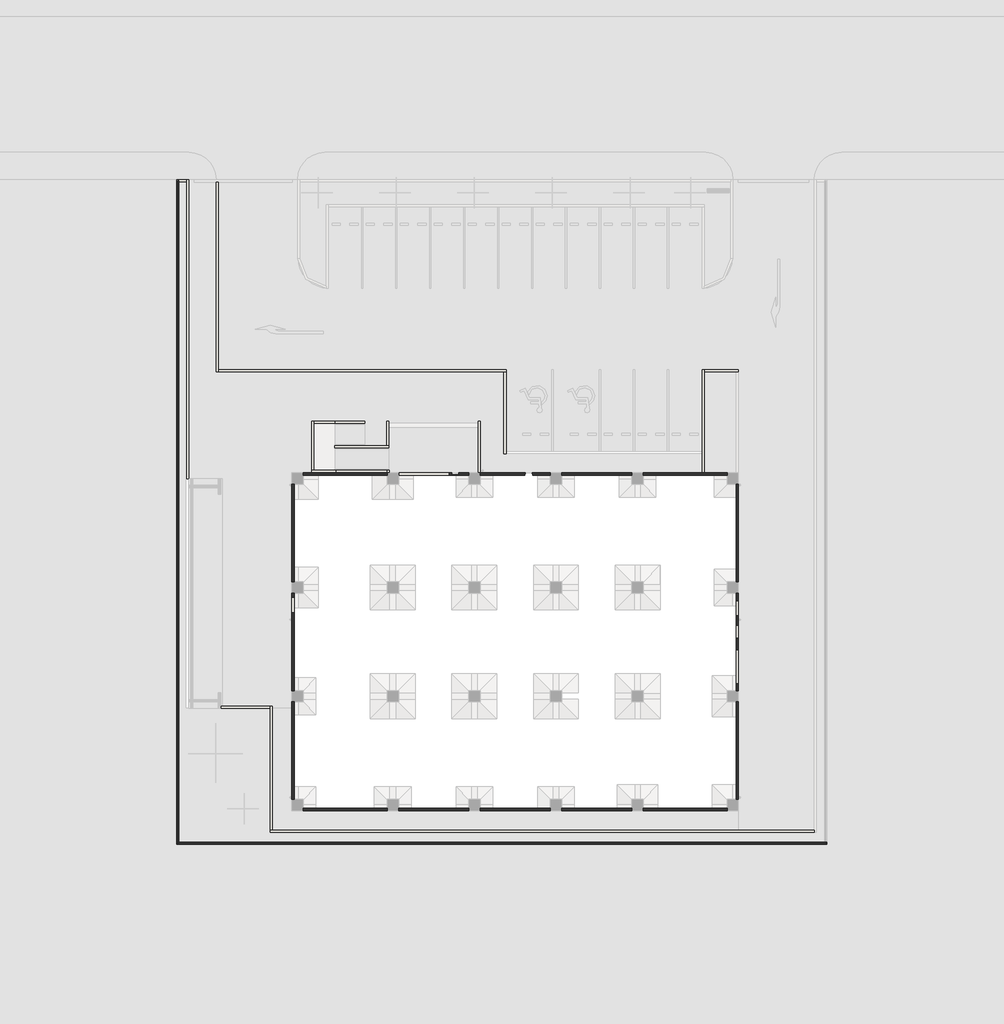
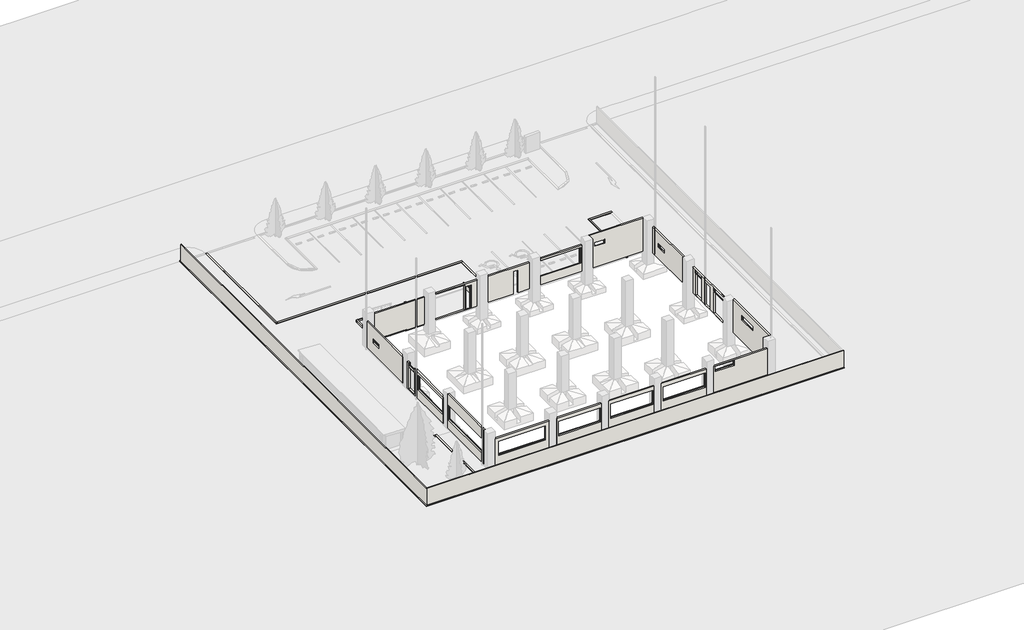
# One storey, part 1 of 4: 26 walls.
"""IFC4 building model written with IfcOpenShell, lengths in millimetres."""

from ifc_helpers import new_model, si_unit, frame, origin, place, context, project, spatial, polyline, outline, extrude, faceted_brep, element, save

model = new_model("IFC4")

# Units and contexts
model_context = context("Model", 3, world=origin())
ifc_project = project(units=[si_unit("LENGTHUNIT", "METRE", prefix="MILLI")], contexts=[model_context])

# Site, building, storey
site = spatial("IfcSite", under=ifc_project)
building = spatial("IfcBuilding", under=site)
storey = spatial("IfcBuildingStorey", under=building, Name="設計GL=平均地盤面", Elevation=-300.0)

# Walls
placement = place(None, origin())
element("IfcWall", 1, ObjectType="(外壁)RC150+20", at=placement, inside=storey, context=model_context, shape_type="Brep", body=[
    faceted_brep([(-250.0, 14112.5, 3100.0), (-250.0, 8420.0, 3100.0), (-250.0, 8420.0, -100.0), (-250.0, 15580.0, -100.0), (-250.0, 15580.0, 3100.0), (-250.0, 15292.5, 3100.0), (-250.0, 15292.5, 2765.0), (-250.0, 14112.5, 2765.0), (-250.0, 15262.5, 2570.0), (-250.0, 15262.5, 0.0), (-250.0, 14152.5, 0.0), (-250.0, 14152.5, 2570.0), (-250.0, 13410.0, 2720.0), (-250.0, 13410.0, 1065.0), (-250.0, 8590.0, 1065.0), (-250.0, 8590.0, 2720.0), (-420.0, 8420.0, 3100.0), (-420.0, 14142.5, 3100.0), (-420.0, 14142.5, 2675.0), (-420.0, 15262.5, 2675.0), (-420.0, 15262.5, 3100.0), (-420.0, 15580.0, 3100.0), (-420.0, 15580.0, -100.0), (-420.0, 8420.0, -100.0), (-420.0, 15262.5, 0.0), (-420.0, 15262.5, 2570.0), (-420.0, 14152.5, 2570.0), (-420.0, 14152.5, 0.0), (-420.0, 8620.0, 975.0), (-420.0, 13380.0, 975.0), (-420.0, 13380.0, 2695.0), (-420.0, 8620.0, 2695.0), (-290.0, 13410.0, 2720.0), (-290.0, 13410.0, 1065.0), (-290.0, 8590.0, 1065.0), (-290.0, 8590.0, 2720.0), (-290.0, 13400.0, 1065.0), (-290.0, 8600.0, 1065.0), (-290.0, 8600.0, 2715.0), (-290.0, 13400.0, 2715.0), (-360.0, 13400.0, 2715.0), (-360.0, 13400.0, 984.2307692), (-290.0, 13400.0, 995.0), (-290.0, 8600.0, 995.0), (-360.0, 8600.0, 984.2307692), (-360.0, 8600.0, 2715.0), (-360.0, 13380.0, 984.2307692), (-360.0, 8620.0, 984.2307692), (-360.0, 8620.0, 2695.0), (-360.0, 13380.0, 2695.0), (-290.0, 14112.5, 3100.0), (-290.0, 14122.5, 3100.0), (-360.0, 14122.5, 3100.0), (-360.0, 14142.5, 3100.0), (-360.0, 15262.5, 3100.0), (-360.0, 15282.5, 3100.0), (-290.0, 15282.5, 3100.0), (-290.0, 15292.5, 3100.0), (-290.0, 15292.5, 2765.0), (-290.0, 14112.5, 2765.0), (-290.0, 15282.5, 2765.0), (-290.0, 14122.5, 2765.0), (-360.0, 15282.5, 2684.2307692), (-290.0, 15282.5, 2695.0), (-290.0, 14122.5, 2695.0), (-360.0, 14122.5, 2684.2307692), (-360.0, 15262.5, 2684.2307692), (-360.0, 14142.5, 2684.2307692)], [[[0, 1, 2, 3, 4, 5, 6, 7], [8, 9, 10, 11], [12, 13, 14, 15]], [[16, 17, 18, 19, 20, 21, 22, 23], [24, 25, 26, 27], [28, 29, 30, 31]], [[9, 8, 25, 24]], [[10, 9, 24, 27]], [[11, 10, 27, 26]], [[8, 11, 26, 25]], [[32, 33, 13, 12]], [[34, 35, 15, 14]], [[13, 33, 36, 37, 34, 14]], [[33, 32, 35, 34, 37, 38, 39, 36]], [[32, 12, 15, 35]], [[36, 39, 40, 41, 42]], [[38, 37, 43, 44, 45]], [[42, 41, 46, 29, 28, 47, 44, 43]], [[41, 40, 45, 44, 47, 48, 49, 46]], [[39, 38, 45, 40]], [[37, 36, 42, 43]], [[29, 46, 49, 30]], [[47, 28, 31, 48]], [[49, 48, 31, 30]], [[1, 16, 23, 2]], [[21, 4, 3, 22]], [[1, 0, 50, 51, 52, 53, 17, 16]], [[5, 4, 21, 20, 54, 55, 56, 57]], [[58, 6, 5, 57]], [[7, 59, 50, 0]], [[58, 60, 61, 59, 7, 6]], [[60, 58, 57, 56]], [[59, 61, 51, 50]], [[62, 63, 60, 56, 55]], [[64, 65, 52, 51, 61]], [[63, 62, 66, 19, 18, 67, 65, 64]], [[66, 62, 55, 54]], [[65, 67, 53, 52]], [[61, 60, 63, 64]], [[19, 66, 54, 20]], [[67, 18, 17, 53]], [[3, 2, 23, 22]]]),
    faceted_brep([(-250.0, 23580.0, 3100.0), (-250.0, 16420.0, 3100.0), (-250.0, 16420.0, -10.0), (-250.0, 23580.0, -10.0), (-250.0, 22325.0, 1785.0), (-250.0, 22325.0, 1365.0), (-250.0, 21145.0, 1365.0), (-250.0, 21145.0, 1785.0), (-420.0, 16420.0, 3100.0), (-420.0, 23580.0, 3100.0), (-420.0, 23580.0, -10.0), (-420.0, 16420.0, -10.0), (-420.0, 21175.0, 1275.0), (-420.0, 22295.0, 1275.0), (-420.0, 22295.0, 1760.0), (-420.0, 21175.0, 1760.0), (-290.0, 22325.0, 1785.0), (-290.0, 22325.0, 1365.0), (-290.0, 21145.0, 1365.0), (-290.0, 21145.0, 1785.0), (-290.0, 22315.0, 1365.0), (-290.0, 21155.0, 1365.0), (-290.0, 21155.0, 1780.0), (-290.0, 22315.0, 1780.0), (-360.0, 22315.0, 1780.0), (-360.0, 22315.0, 1284.2307692), (-290.0, 22315.0, 1295.0), (-290.0, 21155.0, 1295.0), (-360.0, 21155.0, 1284.2307692), (-360.0, 21155.0, 1780.0), (-360.0, 22295.0, 1284.2307692), (-360.0, 21175.0, 1284.2307692), (-360.0, 21175.0, 1760.0), (-360.0, 22295.0, 1760.0)], [[[0, 1, 2, 3], [4, 5, 6, 7]], [[8, 9, 10, 11], [12, 13, 14, 15]], [[11, 2, 1, 8]], [[3, 10, 9, 0]], [[1, 0, 9, 8]], [[16, 17, 5, 4]], [[18, 19, 7, 6]], [[5, 17, 20, 21, 18, 6]], [[17, 16, 19, 18, 21, 22, 23, 20]], [[16, 4, 7, 19]], [[20, 23, 24, 25, 26]], [[22, 21, 27, 28, 29]], [[26, 25, 30, 13, 12, 31, 28, 27]], [[25, 24, 29, 28, 31, 32, 33, 30]], [[23, 22, 29, 24]], [[21, 20, 26, 27]], [[13, 30, 33, 14]], [[31, 12, 15, 32]], [[33, 32, 15, 14]], [[3, 2, 11, 10]]]),
    faceted_brep([(-250.0, 420.0, -100.0), (-250.0, 7580.0, -100.0), (-250.0, 7580.0, 3100.0), (-250.0, 7580.0, 3850.0), (-250.0, 7580.0, 4000.0), (-250.0, 420.0, 4000.0), (-250.0, 420.0, 3850.0), (-250.0, 420.0, 3100.0), (-250.0, 7465.0, 2720.0), (-250.0, 7465.0, 1065.0), (-250.0, 835.0, 1065.0), (-250.0, 835.0, 2720.0), (-420.0, 420.0, 4000.0), (-420.0, 7580.0, 4000.0), (-420.0, 7580.0, -100.0), (-420.0, 420.0, -100.0), (-420.0, 865.0, 975.0), (-420.0, 7435.0, 975.0), (-420.0, 7435.0, 2695.0), (-420.0, 865.0, 2695.0), (-290.0, 7465.0, 2720.0), (-290.0, 7465.0, 1065.0), (-290.0, 835.0, 1065.0), (-290.0, 835.0, 2720.0), (-290.0, 7455.0, 1065.0), (-290.0, 845.0, 1065.0), (-290.0, 845.0, 2715.0), (-290.0, 7455.0, 2715.0), (-360.0, 7455.0, 2715.0), (-360.0, 7455.0, 984.2307692), (-290.0, 7455.0, 995.0), (-290.0, 845.0, 995.0), (-360.0, 845.0, 984.2307692), (-360.0, 845.0, 2715.0), (-360.0, 7435.0, 984.2307692), (-360.0, 865.0, 984.2307692), (-360.0, 865.0, 2695.0), (-360.0, 7435.0, 2695.0)], [[[0, 1, 2, 3, 4, 5, 6, 7], [8, 9, 10, 11]], [[12, 13, 14, 15], [16, 17, 18, 19]], [[12, 5, 4, 13]], [[20, 21, 9, 8]], [[22, 23, 11, 10]], [[9, 21, 24, 25, 22, 10]], [[21, 20, 23, 22, 25, 26, 27, 24]], [[20, 8, 11, 23]], [[24, 27, 28, 29, 30]], [[26, 25, 31, 32, 33]], [[30, 29, 34, 17, 16, 35, 32, 31]], [[29, 28, 33, 32, 35, 36, 37, 34]], [[27, 26, 33, 28]], [[25, 24, 30, 31]], [[17, 34, 37, 18]], [[35, 16, 19, 36]], [[37, 36, 19, 18]], [[15, 0, 7, 6, 5, 12]], [[1, 14, 13, 4, 3, 2]], [[1, 0, 15, 14]]]),
])
element("IfcWall", 2, ObjectType="(外壁)RC150+20", at=placement, inside=storey, context=model_context, shape_type="Brep", body=[
    faceted_brep([(7420.0, 24250.0, 3050.0), (11140.0, 24250.0, 3050.0), (11140.0, 24250.0, 0.0), (7420.0, 24250.0, 0.0), (7420.0, 24250.0, -10.0), (12580.0, 24250.0, -10.0), (12580.0, 24250.0, 3150.0), (7420.0, 24250.0, 3150.0), (11890.0, 24250.0, 2795.0), (11890.0, 24250.0, 40.0), (11310.0, 24250.0, 40.0), (11310.0, 24250.0, 2795.0), (11140.0, 24420.0, 3050.0), (7420.0, 24420.0, 3050.0), (7420.0, 24420.0, 3150.0), (12580.0, 24420.0, 3150.0), (12580.0, 24420.0, -10.0), (11860.0, 24420.0, -10.0), (11860.0, 24420.0, 2770.0), (11340.0, 24420.0, 2770.0), (11340.0, 24420.0, -10.0), (7420.0, 24420.0, -10.0), (7420.0, 24420.0, 0.0), (11140.0, 24420.0, 0.0), (11890.0, 24290.0, 2795.0), (11890.0, 24290.0, 40.0), (11310.0, 24290.0, 40.0), (11310.0, 24290.0, 2795.0), (11880.0, 24290.0, 40.0), (11320.0, 24290.0, 40.0), (11320.0, 24290.0, 2790.0), (11880.0, 24290.0, 2790.0), (11880.0, 24360.0, 2790.0), (11880.0, 24360.0, -10.0), (11880.0, 24290.0, -10.0), (11320.0, 24290.0, -10.0), (11320.0, 24360.0, -10.0), (11320.0, 24360.0, 2790.0), (11340.0, 24360.0, -10.0), (11340.0, 24360.0, 2770.0), (11860.0, 24360.0, 2770.0), (11860.0, 24360.0, -10.0)], [[[0, 1, 2, 3, 4, 5, 6, 7], [8, 9, 10, 11]], [[12, 13, 14, 15, 16, 17, 18, 19, 20, 21, 22, 23]], [[12, 1, 0, 13]], [[23, 2, 1, 12]], [[2, 23, 22, 3]], [[24, 25, 9, 8]], [[26, 27, 11, 10]], [[25, 28, 29, 26, 10, 9]], [[25, 24, 27, 26, 29, 30, 31, 28]], [[27, 24, 8, 11]], [[28, 31, 32, 33, 34]], [[30, 29, 35, 36, 37]], [[32, 37, 36, 38, 39, 40, 41, 33]], [[31, 30, 37, 32]], [[29, 28, 34, 35]], [[40, 18, 17, 41]], [[19, 39, 38, 20]], [[40, 39, 19, 18]], [[21, 4, 3, 22]], [[7, 14, 13, 0]], [[15, 6, 5, 16]], [[7, 6, 15, 14]], [[5, 4, 21, 20, 38, 36, 35, 34, 33, 41, 17, 16]]]),
    faceted_brep([(16710.0, 24250.0, 2720.0), (17290.0, 24250.0, 2720.0), (17290.0, 24250.0, -10.0), (18580.0, 24250.0, -10.0), (18580.0, 24250.0, 3150.0), (13420.0, 24250.0, 3150.0), (13420.0, 24250.0, -10.0), (16710.0, 24250.0, -10.0), (17260.0, 24420.0, 2695.0), (16740.0, 24420.0, 2695.0), (16740.0, 24420.0, -10.0), (13420.0, 24420.0, -10.0), (13420.0, 24420.0, 3150.0), (18580.0, 24420.0, 3150.0), (18580.0, 24420.0, -10.0), (17260.0, 24420.0, -10.0), (16710.0, 24290.0, 2720.0), (16710.0, 24290.0, -10.0), (17290.0, 24290.0, 2720.0), (17290.0, 24290.0, -10.0), (16720.0, 24290.0, -10.0), (16720.0, 24290.0, 2715.0), (17280.0, 24290.0, 2715.0), (17280.0, 24290.0, -10.0), (16720.0, 24360.0, 2715.0), (16720.0, 24360.0, -10.0), (17280.0, 24360.0, 2715.0), (17280.0, 24360.0, -10.0), (16740.0, 24360.0, -10.0), (16740.0, 24360.0, 2695.0), (17260.0, 24360.0, 2695.0), (17260.0, 24360.0, -10.0)], [[[0, 1, 2, 3, 4, 5, 6, 7]], [[8, 9, 10, 11, 12, 13, 14, 15]], [[16, 0, 7, 17]], [[1, 18, 19, 2]], [[18, 16, 17, 20, 21, 22, 23, 19]], [[16, 18, 1, 0]], [[24, 21, 20, 25]], [[22, 26, 27, 23]], [[26, 24, 25, 28, 29, 30, 31, 27]], [[22, 21, 24, 26]], [[9, 29, 28, 10]], [[30, 8, 15, 31]], [[30, 29, 9, 8]], [[11, 6, 5, 12]], [[3, 14, 13, 4]], [[5, 4, 13, 12]], [[3, 2, 19, 23, 27, 31, 15, 14]], [[7, 6, 11, 10, 28, 25, 20, 17]]]),
    faceted_brep([(6580.0, 24250.0, 3150.0), (420.0, 24250.0, 3150.0), (420.0, 24250.0, -10.0), (4075.0, 24250.0, -10.0), (4514.0, 24250.0, -10.0), (4514.0, 24250.0, -100.0), (6580.0, 24250.0, -100.0), (420.0, 24420.0, 3150.0), (6580.0, 24420.0, 3150.0), (6580.0, 24420.0, -300.0), (4514.0, 24420.0, -300.0), (4514.0, 24420.0, -10.0), (420.0, 24420.0, -10.0), (6580.0, 24400.0, -100.0), (6580.0, 24400.0, -300.0), (4514.0, 24400.0, -100.0), (4514.0, 24400.0, -300.0)], [[[0, 1, 2, 3, 4, 5, 6]], [[7, 8, 9, 10, 11, 12]], [[8, 0, 6, 13, 14, 9]], [[12, 2, 1, 7]], [[1, 0, 8, 7]], [[4, 3, 2, 12, 11]], [[13, 15, 16, 14]], [[15, 13, 6, 5]], [[4, 11, 10, 16, 15, 5]], [[10, 9, 14, 16]]]),
    faceted_brep([(24580.0, 24250.0, 3150.0), (19420.0, 24250.0, 3150.0), (19420.0, 24250.0, -10.0), (24580.0, 24250.0, -10.0), (24410.0, 24250.0, 2920.0), (24410.0, 24250.0, 1065.0), (19590.0, 24250.0, 1065.0), (19590.0, 24250.0, 2920.0), (19420.0, 24420.0, 3150.0), (24580.0, 24420.0, 3150.0), (24580.0, 24420.0, -10.0), (19420.0, 24420.0, -10.0), (19620.0, 24420.0, 975.0), (24380.0, 24420.0, 975.0), (24380.0, 24420.0, 2895.0), (19620.0, 24420.0, 2895.0), (24410.0, 24290.0, 2920.0), (24410.0, 24290.0, 1065.0), (19590.0, 24290.0, 1065.0), (19590.0, 24290.0, 2920.0), (24400.0, 24290.0, 1065.0), (19600.0, 24290.0, 1065.0), (19600.0, 24290.0, 2915.0), (24400.0, 24290.0, 2915.0), (24400.0, 24360.0, 2915.0), (24400.0, 24360.0, 984.2307692), (24400.0, 24290.0, 995.0), (19600.0, 24290.0, 995.0), (19600.0, 24360.0, 984.2307692), (19600.0, 24360.0, 2915.0), (24380.0, 24360.0, 984.2307692), (19620.0, 24360.0, 984.2307692), (19620.0, 24360.0, 2895.0), (24380.0, 24360.0, 2895.0)], [[[0, 1, 2, 3], [4, 5, 6, 7]], [[8, 9, 10, 11], [12, 13, 14, 15]], [[16, 17, 5, 4]], [[18, 19, 7, 6]], [[5, 17, 20, 21, 18, 6]], [[17, 16, 19, 18, 21, 22, 23, 20]], [[16, 4, 7, 19]], [[20, 23, 24, 25, 26]], [[22, 21, 27, 28, 29]], [[26, 25, 30, 13, 12, 31, 28, 27]], [[25, 24, 29, 28, 31, 32, 33, 30]], [[23, 22, 29, 24]], [[21, 20, 26, 27]], [[13, 30, 33, 14]], [[31, 12, 15, 32]], [[33, 32, 15, 14]], [[11, 2, 1, 8]], [[3, 10, 9, 0]], [[1, 0, 9, 8]], [[3, 2, 11, 10]]]),
    faceted_brep([(31580.0, 24250.0, 4000.0), (28200.0, 24250.0, 4000.0), (25420.0, 24250.0, 4000.0), (25420.0, 24250.0, 3940.0), (25420.0, 24250.0, 3150.0), (25420.0, 24250.0, -10.0), (31580.0, 24250.0, -10.0), (27190.0, 24250.0, 2935.0), (27190.0, 24250.0, 2515.0), (26010.0, 24250.0, 2515.0), (26010.0, 24250.0, 2935.0), (25420.0, 24420.0, 4000.0), (31580.0, 24420.0, 4000.0), (31580.0, 24420.0, -10.0), (25420.0, 24420.0, -10.0), (26040.0, 24420.0, 2425.0), (27160.0, 24420.0, 2425.0), (27160.0, 24420.0, 2910.0), (26040.0, 24420.0, 2910.0), (25420.0, 24335.0, 4000.0), (27190.0, 24290.0, 2935.0), (27190.0, 24290.0, 2515.0), (26010.0, 24290.0, 2515.0), (26010.0, 24290.0, 2935.0), (27180.0, 24290.0, 2515.0), (26020.0, 24290.0, 2515.0), (26020.0, 24290.0, 2930.0), (27180.0, 24290.0, 2930.0), (27180.0, 24360.0, 2930.0), (27180.0, 24360.0, 2434.2307692), (27180.0, 24290.0, 2445.0), (26020.0, 24290.0, 2445.0), (26020.0, 24360.0, 2434.2307692), (26020.0, 24360.0, 2930.0), (27160.0, 24360.0, 2434.2307692), (26040.0, 24360.0, 2434.2307692), (26040.0, 24360.0, 2910.0), (27160.0, 24360.0, 2910.0)], [[[0, 1, 2, 3, 4, 5, 6], [7, 8, 9, 10]], [[11, 12, 13, 14], [15, 16, 17, 18]], [[14, 5, 4, 3, 2, 19, 11]], [[6, 13, 12, 0]], [[20, 21, 8, 7]], [[22, 23, 10, 9]], [[8, 21, 24, 25, 22, 9]], [[21, 20, 23, 22, 25, 26, 27, 24]], [[20, 7, 10, 23]], [[24, 27, 28, 29, 30]], [[26, 25, 31, 32, 33]], [[30, 29, 34, 16, 15, 35, 32, 31]], [[29, 28, 33, 32, 35, 36, 37, 34]], [[27, 26, 33, 28]], [[25, 24, 30, 31]], [[16, 34, 37, 17]], [[35, 15, 18, 36]], [[37, 36, 18, 17]], [[6, 5, 14, 13]], [[2, 1, 0, 12, 11, 19]]]),
])
element("IfcWall", 3, ObjectType="(外壁)RC150+20", at=placement, inside=storey, context=model_context, shape_type="Brep", body=[
    faceted_brep([(32250.0, 8420.0, 3100.0), (32250.0, 15580.0, 3100.0), (32250.0, 15580.0, -10.0), (32250.0, 13555.0, -10.0), (32250.0, 8420.0, -10.0), (32250.0, 11430.0, 0.0), (32250.0, 11430.0, 2585.0), (32250.0, 8930.0, 2585.0), (32250.0, 8930.0, 0.0), (32250.0, 15035.0, 0.0), (32250.0, 15035.0, 2570.0), (32250.0, 13925.0, 2570.0), (32250.0, 13925.0, 0.0), (32250.0, 8890.0, 3085.0), (32250.0, 8890.0, 2665.0), (32250.0, 11470.0, 2665.0), (32250.0, 11470.0, 3085.0), (32250.0, 13895.0, 3070.0), (32250.0, 13895.0, 2650.0), (32250.0, 15075.0, 2650.0), (32250.0, 15075.0, 3070.0), (32250.0, 13205.0, 0.0), (32250.0, 13205.0, 2685.0), (32250.0, 12255.0, 2685.0), (32250.0, 12255.0, 0.0), (32420.0, 15580.0, 3100.0), (32420.0, 8420.0, 3100.0), (32420.0, 8420.0, -10.0), (32420.0, 15580.0, -10.0), (32420.0, 11430.0, 0.0), (32420.0, 8930.0, 0.0), (32420.0, 8930.0, 2575.0), (32420.0, 8920.0, 2575.0), (32420.0, 8920.0, 3060.0), (32420.0, 11440.0, 3060.0), (32420.0, 11440.0, 2575.0), (32420.0, 11430.0, 2575.0), (32420.0, 15035.0, 0.0), (32420.0, 13925.0, 0.0), (32420.0, 13925.0, 3045.0), (32420.0, 15045.0, 3045.0), (32420.0, 15045.0, 2560.0), (32420.0, 15035.0, 2560.0), (32420.0, 13205.0, 2685.0), (32420.0, 13205.0, 0.0), (32420.0, 12255.0, 0.0), (32420.0, 12255.0, 2685.0), (32355.0, 11430.0, 2585.0), (32355.0, 8930.0, 2585.0), (32355.0, 15035.0, 2570.0), (32355.0, 13925.0, 2570.0), (32360.0, 13925.0, 2569.2307692), (32360.0, 13925.0, 3045.0), (32290.0, 8890.0, 3085.0), (32290.0, 8890.0, 2665.0), (32290.0, 11470.0, 2665.0), (32290.0, 11470.0, 3085.0), (32290.0, 8900.0, 2665.0), (32290.0, 11460.0, 2665.0), (32290.0, 11460.0, 3080.0), (32290.0, 8900.0, 3080.0), (32360.0, 8900.0, 3080.0), (32360.0, 8900.0, 2584.2307692), (32290.0, 8900.0, 2595.0), (32290.0, 11460.0, 2595.0), (32360.0, 11460.0, 2584.2307692), (32360.0, 11460.0, 3080.0), (32360.0, 8920.0, 2584.2307692), (32360.0, 11440.0, 2584.2307692), (32360.0, 11440.0, 3060.0), (32360.0, 8920.0, 3060.0), (32290.0, 13895.0, 3070.0), (32290.0, 13895.0, 2650.0), (32290.0, 15075.0, 2650.0), (32290.0, 15075.0, 3070.0), (32290.0, 13905.0, 2650.0), (32290.0, 15065.0, 2650.0), (32290.0, 15065.0, 3065.0), (32290.0, 13905.0, 3065.0), (32360.0, 13905.0, 3065.0), (32360.0, 13905.0, 2569.2307692), (32290.0, 13905.0, 2580.0), (32290.0, 15065.0, 2580.0), (32360.0, 15065.0, 2569.2307692), (32360.0, 15065.0, 3065.0), (32360.0, 15045.0, 2569.2307692), (32360.0, 15045.0, 3045.0)], [[[0, 1, 2, 3, 4], [5, 6, 7, 8], [9, 10, 11, 12], [13, 14, 15, 16], [17, 18, 19, 20], [21, 22, 23, 24]], [[25, 26, 27, 28], [29, 30, 31, 32, 33, 34, 35, 36], [37, 38, 39, 40, 41, 42], [43, 44, 45, 46]], [[6, 5, 29, 36, 47]], [[30, 29, 5, 8]], [[8, 7, 48, 31, 30]], [[7, 6, 47, 48]], [[10, 9, 37, 42, 49]], [[38, 37, 9, 12]], [[12, 11, 50, 51, 52, 39, 38]], [[11, 10, 49, 50]], [[4, 27, 26, 0]], [[28, 2, 1, 25]], [[1, 0, 26, 25]], [[53, 54, 14, 13]], [[55, 56, 16, 15]], [[54, 57, 58, 55, 15, 14]], [[54, 53, 56, 55, 58, 59, 60, 57]], [[56, 53, 13, 16]], [[57, 60, 61, 62, 63]], [[59, 58, 64, 65, 66]], [[63, 62, 67, 32, 31, 48, 47, 36, 35, 68, 65, 64]], [[62, 61, 66, 65, 68, 69, 70, 67]], [[60, 59, 66, 61]], [[58, 57, 63, 64]], [[32, 67, 70, 33]], [[68, 35, 34, 69]], [[70, 69, 34, 33]], [[71, 72, 18, 17]], [[73, 74, 20, 19]], [[72, 75, 76, 73, 19, 18]], [[72, 71, 74, 73, 76, 77, 78, 75]], [[74, 71, 17, 20]], [[75, 78, 79, 80, 81]], [[77, 76, 82, 83, 84]], [[81, 80, 51, 50, 49, 42, 41, 85, 83, 82]], [[80, 79, 84, 83, 85, 86, 52, 51]], [[78, 77, 84, 79]], [[76, 75, 81, 82]], [[85, 41, 40, 86]], [[52, 86, 40, 39]], [[4, 3, 2, 28, 27]], [[44, 43, 22, 21]], [[45, 44, 21, 24]], [[46, 45, 24, 23]], [[43, 46, 23, 22]]]),
    faceted_brep([(32250.0, 16420.0, 3100.0), (32250.0, 23580.0, 3100.0), (32250.0, 23580.0, -10.0), (32250.0, 16420.0, -10.0), (32250.0, 21210.0, 1785.0), (32250.0, 21210.0, 1365.0), (32250.0, 22390.0, 1365.0), (32250.0, 22390.0, 1785.0), (32420.0, 23580.0, 3100.0), (32420.0, 16420.0, 3100.0), (32420.0, 16420.0, -10.0), (32420.0, 23580.0, -10.0), (32420.0, 22360.0, 1275.0), (32420.0, 21240.0, 1275.0), (32420.0, 21240.0, 1760.0), (32420.0, 22360.0, 1760.0), (32290.0, 21210.0, 1785.0), (32290.0, 21210.0, 1365.0), (32290.0, 22390.0, 1365.0), (32290.0, 22390.0, 1785.0), (32290.0, 21220.0, 1365.0), (32290.0, 22380.0, 1365.0), (32290.0, 22380.0, 1780.0), (32290.0, 21220.0, 1780.0), (32360.0, 21220.0, 1780.0), (32360.0, 21220.0, 1284.2307692), (32290.0, 21220.0, 1295.0), (32290.0, 22380.0, 1295.0), (32360.0, 22380.0, 1284.2307692), (32360.0, 22380.0, 1780.0), (32360.0, 21240.0, 1284.2307692), (32360.0, 22360.0, 1284.2307692), (32360.0, 22360.0, 1760.0), (32360.0, 21240.0, 1760.0)], [[[0, 1, 2, 3], [4, 5, 6, 7]], [[8, 9, 10, 11], [12, 13, 14, 15]], [[9, 0, 3, 10]], [[1, 8, 11, 2]], [[1, 0, 9, 8]], [[16, 17, 5, 4]], [[18, 19, 7, 6]], [[5, 17, 20, 21, 18, 6]], [[17, 16, 19, 18, 21, 22, 23, 20]], [[16, 4, 7, 19]], [[20, 23, 24, 25, 26]], [[22, 21, 27, 28, 29]], [[26, 25, 30, 13, 12, 31, 28, 27]], [[25, 24, 29, 28, 31, 32, 33, 30]], [[23, 22, 29, 24]], [[21, 20, 26, 27]], [[13, 30, 33, 14]], [[31, 12, 15, 32]], [[33, 32, 15, 14]], [[3, 2, 11, 10]]]),
    faceted_brep([(32250.0, 420.0, 4000.0), (32250.0, 7580.0, 4000.0), (32250.0, 7580.0, 3940.0), (32250.0, 7580.0, 3100.0), (32250.0, 7580.0, -10.0), (32250.0, 420.0, -10.0), (32250.0, 420.0, 3100.0), (32250.0, 420.0, 3940.0), (32250.0, 3710.0, 3085.0), (32250.0, 3710.0, 2565.0), (32250.0, 5890.0, 2565.0), (32250.0, 5890.0, 3085.0), (32420.0, 7580.0, 4000.0), (32420.0, 420.0, 4000.0), (32420.0, 420.0, -10.0), (32420.0, 7580.0, -10.0), (32420.0, 5860.0, 2475.0), (32420.0, 3740.0, 2475.0), (32420.0, 3740.0, 3060.0), (32420.0, 5860.0, 3060.0), (32325.0, 420.0, 4000.0), (32325.0, 7580.0, 4000.0), (32290.0, 3710.0, 3085.0), (32290.0, 3710.0, 2565.0), (32290.0, 5890.0, 2565.0), (32290.0, 5890.0, 3085.0), (32290.0, 3720.0, 2565.0), (32290.0, 5880.0, 2565.0), (32290.0, 5880.0, 3080.0), (32290.0, 3720.0, 3080.0), (32360.0, 3720.0, 3080.0), (32360.0, 3720.0, 2484.2307692), (32290.0, 3720.0, 2495.0), (32290.0, 5880.0, 2495.0), (32360.0, 5880.0, 2484.2307692), (32360.0, 5880.0, 3080.0), (32360.0, 3740.0, 2484.2307692), (32360.0, 5860.0, 2484.2307692), (32360.0, 5860.0, 3060.0), (32360.0, 3740.0, 3060.0)], [[[0, 1, 2, 3, 4, 5, 6, 7], [8, 9, 10, 11]], [[12, 13, 14, 15], [16, 17, 18, 19]], [[0, 20, 13, 12, 21, 1]], [[13, 20, 0, 7, 6, 5, 14]], [[1, 21, 12, 15, 4, 3, 2]], [[22, 23, 9, 8]], [[24, 25, 11, 10]], [[9, 23, 26, 27, 24, 10]], [[23, 22, 25, 24, 27, 28, 29, 26]], [[22, 8, 11, 25]], [[26, 29, 30, 31, 32]], [[28, 27, 33, 34, 35]], [[32, 31, 36, 17, 16, 37, 34, 33]], [[31, 30, 35, 34, 37, 38, 39, 36]], [[29, 28, 35, 30]], [[27, 26, 32, 33]], [[17, 36, 39, 18]], [[37, 16, 19, 38]], [[39, 38, 19, 18]], [[5, 4, 15, 14]]]),
])
element("IfcWall", 4, ObjectType="(外壁)RC150+20", at=placement, inside=storey, context=model_context, shape_type="Brep", body=[
    faceted_brep([(25420.0, -250.0, 3150.0), (31580.0, -250.0, 3150.0), (31580.0, -250.0, -10.0), (25420.0, -250.0, -10.0), (25572.7, -250.0, 3085.0), (25572.7, -250.0, 2565.0), (27752.7, -250.0, 2565.0), (27752.7, -250.0, 3085.0), (31580.0, -420.0, 3150.0), (25420.0, -420.0, 3150.0), (25420.0, -420.0, -10.0), (31580.0, -420.0, -10.0), (27722.7, -420.0, 2475.0), (25602.7, -420.0, 2475.0), (25602.7, -420.0, 3060.0), (27722.7, -420.0, 3060.0), (25572.7, -290.0, 3085.0), (25572.7, -290.0, 2565.0), (27752.7, -290.0, 2565.0), (27752.7, -290.0, 3085.0), (25582.7, -290.0, 2565.0), (27742.7, -290.0, 2565.0), (27742.7, -290.0, 3080.0), (25582.7, -290.0, 3080.0), (25582.7, -360.0, 3080.0), (25582.7, -360.0, 2484.2307692), (25582.7, -290.0, 2495.0), (27742.7, -290.0, 2495.0), (27742.7, -360.0, 2484.2307692), (27742.7, -360.0, 3080.0), (25602.7, -360.0, 2484.2307692), (27722.7, -360.0, 2484.2307692), (27722.7, -360.0, 3060.0), (25602.7, -360.0, 3060.0)], [[[0, 1, 2, 3], [4, 5, 6, 7]], [[8, 9, 10, 11], [12, 13, 14, 15]], [[16, 17, 5, 4]], [[18, 19, 7, 6]], [[5, 17, 20, 21, 18, 6]], [[17, 16, 19, 18, 21, 22, 23, 20]], [[16, 4, 7, 19]], [[20, 23, 24, 25, 26]], [[22, 21, 27, 28, 29]], [[26, 25, 30, 13, 12, 31, 28, 27]], [[25, 24, 29, 28, 31, 32, 33, 30]], [[23, 22, 29, 24]], [[21, 20, 26, 27]], [[13, 30, 33, 14]], [[31, 12, 15, 32]], [[33, 32, 15, 14]], [[9, 0, 3, 10]], [[1, 8, 11, 2]], [[1, 0, 9, 8]], [[3, 2, 11, 10]]]),
    faceted_brep([(19420.0, -250.0, 3150.0), (24580.0, -250.0, 3150.0), (24580.0, -250.0, -100.0), (22175.0, -250.0, -100.0), (19420.0, -250.0, -100.0), (19621.2951348, -250.0, 2720.0), (19621.2951348, -250.0, 1065.0), (24441.2951348, -250.0, 1065.0), (24441.2951348, -250.0, 2720.0), (24580.0, -420.0, 3150.0), (19420.0, -420.0, 3150.0), (19420.0, -420.0, -100.0), (24580.0, -420.0, -100.0), (24411.2951348, -420.0, 975.0), (19651.2951348, -420.0, 975.0), (19651.2951348, -420.0, 2695.0), (24411.2951348, -420.0, 2695.0), (19621.2951348, -290.0, 2720.0), (19621.2951348, -290.0, 1065.0), (24441.2951348, -290.0, 1065.0), (24441.2951348, -290.0, 2720.0), (19631.2951348, -290.0, 1065.0), (24431.2951348, -290.0, 1065.0), (24431.2951348, -290.0, 2715.0), (19631.2951348, -290.0, 2715.0), (19631.2951348, -360.0, 2715.0), (19631.2951348, -360.0, 984.2307692), (19631.2951348, -290.0, 995.0), (24431.2951348, -290.0, 995.0), (24431.2951348, -360.0, 984.2307692), (24431.2951348, -360.0, 2715.0), (19651.2951348, -360.0, 984.2307692), (24411.2951348, -360.0, 984.2307692), (24411.2951348, -360.0, 2695.0), (19651.2951348, -360.0, 2695.0), (19420.0, -335.0, -100.0)], [[[0, 1, 2, 3, 4], [5, 6, 7, 8]], [[9, 10, 11, 12], [13, 14, 15, 16]], [[17, 18, 6, 5]], [[19, 20, 8, 7]], [[6, 18, 21, 22, 19, 7]], [[18, 17, 20, 19, 22, 23, 24, 21]], [[17, 5, 8, 20]], [[21, 24, 25, 26, 27]], [[23, 22, 28, 29, 30]], [[27, 26, 31, 14, 13, 32, 29, 28]], [[26, 25, 30, 29, 32, 33, 34, 31]], [[24, 23, 30, 25]], [[22, 21, 27, 28]], [[14, 31, 34, 15]], [[32, 13, 16, 33]], [[34, 33, 16, 15]], [[4, 35, 11, 10, 0]], [[12, 2, 1, 9]], [[1, 0, 10, 9]], [[4, 3, 2, 12, 11, 35]]]),
    faceted_brep([(13420.0, -250.0, 3150.0), (18580.0, -250.0, 3150.0), (18580.0, -250.0, -100.0), (13420.0, -250.0, -100.0), (13621.2951348, -250.0, 2720.0), (13621.2951348, -250.0, 1065.0), (18441.2951348, -250.0, 1065.0), (18441.2951348, -250.0, 2720.0), (18580.0, -420.0, 3150.0), (13420.0, -420.0, 3150.0), (13420.0, -420.0, -100.0), (18580.0, -420.0, -100.0), (18411.2951348, -420.0, 975.0), (13651.2951348, -420.0, 975.0), (13651.2951348, -420.0, 2695.0), (18411.2951348, -420.0, 2695.0), (13420.0, -335.0, -100.0), (18580.0, -335.0, -100.0), (13621.2951348, -290.0, 2720.0), (13621.2951348, -290.0, 1065.0), (18441.2951348, -290.0, 1065.0), (18441.2951348, -290.0, 2720.0), (13631.2951348, -290.0, 1065.0), (18431.2951348, -290.0, 1065.0), (18431.2951348, -290.0, 2715.0), (13631.2951348, -290.0, 2715.0), (13631.2951348, -360.0, 2715.0), (13631.2951348, -360.0, 984.2307692), (13631.2951348, -290.0, 995.0), (18431.2951348, -290.0, 995.0), (18431.2951348, -360.0, 984.2307692), (18431.2951348, -360.0, 2715.0), (13651.2951348, -360.0, 984.2307692), (18411.2951348, -360.0, 984.2307692), (18411.2951348, -360.0, 2695.0), (13651.2951348, -360.0, 2695.0)], [[[0, 1, 2, 3], [4, 5, 6, 7]], [[8, 9, 10, 11], [12, 13, 14, 15]], [[3, 16, 10, 9, 0]], [[11, 17, 2, 1, 8]], [[1, 0, 9, 8]], [[3, 2, 17, 11, 10, 16]], [[18, 19, 5, 4]], [[20, 21, 7, 6]], [[5, 19, 22, 23, 20, 6]], [[19, 18, 21, 20, 23, 24, 25, 22]], [[18, 4, 7, 21]], [[22, 25, 26, 27, 28]], [[24, 23, 29, 30, 31]], [[28, 27, 32, 13, 12, 33, 30, 29]], [[27, 26, 31, 30, 33, 34, 35, 32]], [[25, 24, 31, 26]], [[23, 22, 28, 29]], [[13, 32, 35, 14]], [[33, 12, 15, 34]], [[35, 34, 15, 14]]]),
    faceted_brep([(7420.0, -250.0, 3150.0), (12580.0, -250.0, 3150.0), (12580.0, -250.0, -100.0), (7420.0, -250.0, -100.0), (7621.2951348, -250.0, 2720.0), (7621.2951348, -250.0, 1065.0), (12441.2951348, -250.0, 1065.0), (12441.2951348, -250.0, 2720.0), (12580.0, -420.0, 3150.0), (7420.0, -420.0, 3150.0), (7420.0, -420.0, -100.0), (12580.0, -420.0, -100.0), (12411.2951348, -420.0, 975.0), (7651.2951348, -420.0, 975.0), (7651.2951348, -420.0, 2695.0), (12411.2951348, -420.0, 2695.0), (12580.0, -335.0, -100.0), (7420.0, -335.0, -100.0), (7621.2951348, -290.0, 2720.0), (7621.2951348, -290.0, 1065.0), (12441.2951348, -290.0, 1065.0), (12441.2951348, -290.0, 2720.0), (7631.2951348, -290.0, 1065.0), (12431.2951348, -290.0, 1065.0), (12431.2951348, -290.0, 2715.0), (7631.2951348, -290.0, 2715.0), (7631.2951348, -360.0, 2715.0), (7631.2951348, -360.0, 984.2307692), (7631.2951348, -290.0, 995.0), (12431.2951348, -290.0, 995.0), (12431.2951348, -360.0, 984.2307692), (12431.2951348, -360.0, 2715.0), (7651.2951348, -360.0, 984.2307692), (12411.2951348, -360.0, 984.2307692), (12411.2951348, -360.0, 2695.0), (7651.2951348, -360.0, 2695.0)], [[[0, 1, 2, 3], [4, 5, 6, 7]], [[8, 9, 10, 11], [12, 13, 14, 15]], [[11, 16, 2, 1, 8]], [[3, 17, 10, 9, 0]], [[1, 0, 9, 8]], [[3, 2, 16, 11, 10, 17]], [[18, 19, 5, 4]], [[20, 21, 7, 6]], [[5, 19, 22, 23, 20, 6]], [[19, 18, 21, 20, 23, 24, 25, 22]], [[18, 4, 7, 21]], [[22, 25, 26, 27, 28]], [[24, 23, 29, 30, 31]], [[28, 27, 32, 13, 12, 33, 30, 29]], [[27, 26, 31, 30, 33, 34, 35, 32]], [[25, 24, 31, 26]], [[23, 22, 28, 29]], [[13, 32, 35, 14]], [[33, 12, 15, 34]], [[35, 34, 15, 14]]]),
    faceted_brep([(420.0, -250.0, 3150.0), (6580.0, -250.0, 3150.0), (6580.0, -250.0, -100.0), (420.0, -250.0, -100.0), (763.7951348, -250.0, 2720.0), (763.7951348, -250.0, 1065.0), (6188.7951348, -250.0, 1065.0), (6188.7951348, -250.0, 2720.0), (6580.0, -420.0, 3150.0), (420.0, -420.0, 3150.0), (420.0, -420.0, -100.0), (6580.0, -420.0, -100.0), (6158.7951348, -420.0, 975.0), (793.7951348, -420.0, 975.0), (793.7951348, -420.0, 2695.0), (6158.7951348, -420.0, 2695.0), (763.7951348, -290.0, 2720.0), (763.7951348, -290.0, 1065.0), (6188.7951348, -290.0, 1065.0), (6188.7951348, -290.0, 2720.0), (773.7951348, -290.0, 1065.0), (6178.7951348, -290.0, 1065.0), (6178.7951348, -290.0, 2715.0), (773.7951348, -290.0, 2715.0), (773.7951348, -360.0, 2715.0), (773.7951348, -360.0, 984.2307692), (773.7951348, -290.0, 995.0), (6178.7951348, -290.0, 995.0), (6178.7951348, -360.0, 984.2307692), (6178.7951348, -360.0, 2715.0), (793.7951348, -360.0, 984.2307692), (6158.7951348, -360.0, 984.2307692), (6158.7951348, -360.0, 2695.0), (793.7951348, -360.0, 2695.0), (420.0, -335.0, -100.0), (6580.0, -335.0, -100.0)], [[[0, 1, 2, 3], [4, 5, 6, 7]], [[8, 9, 10, 11], [12, 13, 14, 15]], [[16, 17, 5, 4]], [[18, 19, 7, 6]], [[5, 17, 20, 21, 18, 6]], [[17, 16, 19, 18, 21, 22, 23, 20]], [[16, 4, 7, 19]], [[20, 23, 24, 25, 26]], [[22, 21, 27, 28, 29]], [[26, 25, 30, 13, 12, 31, 28, 27]], [[25, 24, 29, 28, 31, 32, 33, 30]], [[23, 22, 29, 24]], [[21, 20, 26, 27]], [[13, 30, 33, 14]], [[31, 12, 15, 32]], [[33, 32, 15, 14]], [[3, 34, 10, 9, 0]], [[11, 35, 2, 1, 8]], [[1, 0, 9, 8]], [[3, 2, 35, 11, 10, 34]]]),
])
element("IfcWall", 5, ObjectType="(外構)縁石", at=placement, inside=storey, context=model_context, shape_type="Brep", body=[
    faceted_brep([(-8150.0, 46000.0, -300.0), (-8150.0, 45850.0, -300.0), (-8150.0, 24000.0, -300.0), (-8150.0, 24000.0, -200.0), (-8150.0, 45850.0, -200.0), (-8150.0, 46000.0, -200.0), (-8000.0, 46000.0, -300.0), (-8000.0, 46000.0, -200.0), (-8000.0, 24000.0, -200.0), (-8000.0, 24000.0, -300.0)], [[[0, 1, 2, 3, 4, 5]], [[6, 7, 8, 9]], [[2, 1, 0, 6, 9]], [[3, 2, 9, 8]], [[5, 4, 3, 8, 7]], [[0, 5, 7, 6]]]),
])
element("IfcWall", 6, ObjectType="(外構)縁石", at=placement, inside=storey, context=model_context, shape_type="Brep", body=[
    faceted_brep([(-6000.0, 45790.0, -300.0), (-6000.0, 31850.0, -300.0), (-6000.0, 31850.0, -200.0), (-6000.0, 45790.0, -200.0), (-5850.0, 45790.0, -300.0), (-5850.0, 45790.0, -200.0), (-5850.0, 32000.0, -200.0), (-5850.0, 31850.0, -200.0), (-5850.0, 31850.0, -300.0), (-5850.0, 32000.0, -300.0)], [[[0, 1, 2, 3]], [[4, 5, 6, 7, 8, 9]], [[1, 0, 4, 9, 8]], [[3, 2, 7, 6, 5]], [[0, 3, 5, 4]], [[2, 1, 8, 7]]]),
])
element("IfcWall", 7, ObjectType="(外構)縁石", at=placement, inside=storey, context=model_context, shape_type="Brep", body=[
    faceted_brep([(38000.0, -1850.0, -300.0), (-1850.0, -1850.0, -300.0), (-2000.0, -1850.0, -300.0), (-2000.0, -1850.0, -200.0), (-1850.0, -1850.0, -200.0), (38000.0, -1850.0, -200.0), (38000.0, -2000.0, -300.0), (38000.0, -2000.0, -200.0), (-2000.0, -2000.0, -200.0), (-2000.0, -2000.0, -300.0)], [[[0, 1, 2, 3, 4, 5]], [[6, 7, 8, 9]], [[2, 1, 0, 6, 9]], [[5, 4, 3, 8, 7]], [[0, 5, 7, 6]], [[3, 2, 9, 8]]]),
])
element("IfcWall", 8, ObjectType="(外構)縁石", at=placement, inside=storey, context=model_context, shape_type="Brep", body=[
    faceted_brep([(-1850.0, -1850.0, -300.0), (-1850.0, 7250.0, -300.0), (-1850.0, 7250.0, -200.0), (-1850.0, -1850.0, -200.0), (-2000.0, -1850.0, -300.0), (-2000.0, -1850.0, -200.0), (-2000.0, 7100.0, -200.0), (-2000.0, 7250.0, -200.0), (-2000.0, 7250.0, -300.0), (-2000.0, 7100.0, -300.0)], [[[0, 1, 2, 3]], [[4, 5, 6, 7, 8, 9]], [[1, 0, 4, 9, 8]], [[3, 2, 7, 6, 5]], [[0, 3, 5, 4]], [[2, 1, 8, 7]]]),
])
element("IfcWall", 9, ObjectType="(外構)縁石", at=placement, inside=storey, context=model_context, shape_type="SweptSolid", body=[
    extrude(outline(polyline([(-5750.0, 7250.0), (-2000.0, 7250.0), (-2000.0, 7100.0), (-5750.0, 7100.0), (-5750.0, 7250.0)])), frame((0.0, 0.0, -300.0), z_axis=(0.0, 0.0, 1.0), x_axis=(1.0, 0.0, 0.0)), (0.0, 0.0, 1.0), 100.0),
])
element("IfcWall", 10, ObjectType="(外構)縁石", at=placement, inside=storey, context=model_context, shape_type="Brep", body=[
    faceted_brep([(-8150.0, 46000.0, -300.0), (-8900.0, 46000.0, -300.0), (-8900.0, 46000.0, -200.0), (-8150.0, 46000.0, -200.0), (-8150.0, 45850.0, -300.0), (-8150.0, 45850.0, -200.0), (-8750.0, 45850.0, -200.0), (-8900.0, 45850.0, -200.0), (-8900.0, 45850.0, -300.0), (-8750.0, 45850.0, -300.0)], [[[0, 1, 2, 3]], [[4, 5, 6, 7, 8, 9]], [[1, 0, 4, 9, 8]], [[3, 2, 7, 6, 5]], [[0, 3, 5, 4]], [[2, 1, 8, 7]]]),
])
element("IfcWall", 11, ObjectType="(外構)縁石", at=placement, inside=storey, context=model_context, shape_type="Brep", body=[
    faceted_brep([(29900.0, 24420.0, -300.0), (29900.0, 31850.0, -300.0), (29900.0, 32000.0, -300.0), (29900.0, 32000.0, -200.0), (29900.0, 31850.0, -200.0), (29900.0, 24420.0, -200.0), (29750.0, 24420.0, -300.0), (29750.0, 24420.0, -200.0), (29750.0, 32000.0, -200.0), (29750.0, 32000.0, -300.0)], [[[0, 1, 2, 3, 4, 5]], [[6, 7, 8, 9]], [[2, 1, 0, 6, 9]], [[5, 4, 3, 8, 7]], [[0, 5, 7, 6]], [[3, 2, 9, 8]]]),
])
element("IfcWall", 12, ObjectType="(外構)縁石", at=placement, inside=storey, context=model_context, shape_type="Brep", body=[
    faceted_brep([(29900.0, 31850.0, -300.0), (32270.0, 31850.0, -300.0), (32420.0, 31850.0, -300.0), (32420.0, 31850.0, -200.0), (32270.0, 31850.0, -200.0), (29900.0, 31850.0, -200.0), (29900.0, 32000.0, -300.0), (29900.0, 32000.0, -200.0), (32420.0, 32000.0, -200.0), (32420.0, 32000.0, -300.0)], [[[0, 1, 2, 3, 4, 5]], [[6, 7, 8, 9]], [[2, 1, 0, 6, 9]], [[5, 4, 3, 8, 7]], [[0, 5, 7, 6]], [[3, 2, 9, 8]]]),
])
element("IfcWall", 13, ObjectType="(外構)縁石", at=placement, inside=storey, context=model_context, shape_type="Brep", body=[
    faceted_brep([(-5850.0, 31850.0, -300.0), (15175.0, 31850.0, -300.0), (15325.0, 31850.0, -300.0), (15325.0, 31850.0, -200.0), (15175.0, 31850.0, -200.0), (-5850.0, 31850.0, -200.0), (-5850.0, 32000.0, -300.0), (-5850.0, 32000.0, -200.0), (15325.0, 32000.0, -200.0), (15325.0, 32000.0, -300.0)], [[[0, 1, 2, 3, 4, 5]], [[6, 7, 8, 9]], [[2, 1, 0, 6, 9]], [[5, 4, 3, 8, 7]], [[0, 5, 7, 6]], [[3, 2, 9, 8]]]),
])
element("IfcWall", 14, ObjectType="(外構)縁石", at=placement, inside=storey, context=model_context, shape_type="SweptSolid", body=[
    extrude(outline(polyline([(15175.0, 25850.0), (15175.0, 31850.0), (15325.0, 31850.0), (15325.0, 25850.0), (15175.0, 25850.0)])), frame((0.0, 0.0, -300.0), z_axis=(0.0, 0.0, 1.0), x_axis=(1.0, 0.0, 0.0)), (0.0, 0.0, 1.0), 100.0),
])
element("IfcWall", 15, ObjectType="(外構)縁石", at=placement, inside=storey, context=model_context, shape_type="Brep", body=[
    faceted_brep([(-8900.0, 45850.0, -300.0), (-8900.0, -2900.0, -300.0), (-8900.0, -2900.0, -200.0), (-8900.0, 45850.0, -200.0), (-8750.0, 45850.0, -300.0), (-8750.0, 45850.0, -200.0), (-8750.0, -2750.0, -200.0), (-8750.0, -2830.0, -200.0), (-8750.0, -2900.0, -200.0), (-8750.0, -2900.0, -300.0), (-8750.0, -2750.0, -300.0)], [[[0, 1, 2, 3]], [[4, 5, 6, 7, 8, 9, 10]], [[1, 0, 4, 10, 9]], [[3, 2, 8, 7, 6, 5]], [[2, 1, 9, 8]], [[0, 3, 5, 4]]]),
])
element("IfcWall", 16, ObjectType="(外構)目隠しフェンス", at=placement, inside=storey, context=model_context, shape_type="Brep", body=[
    faceted_brep([(-8830.0, 45925.0, -200.0), (-8830.0, -2830.0, -200.0), (-8830.0, -2830.0, 1800.0), (-8830.0, 45925.0, 1800.0), (-8750.0, 45925.0, -200.0), (-8750.0, 45925.0, 1800.0), (-8750.0, -2750.0, 1800.0), (-8750.0, -2830.0, 1800.0), (-8750.0, -2830.0, -200.0), (-8750.0, -2750.0, -200.0), (-8750.0, 45850.0, -200.0)], [[[0, 1, 2, 3]], [[4, 5, 6, 7, 8, 9, 10]], [[1, 0, 4, 10, 9, 8]], [[3, 2, 7, 6, 5]], [[0, 3, 5, 4]], [[2, 1, 8, 7]]]),
])
element("IfcWall", 17, ObjectType="(外構)縁石", at=placement, inside=storey, context=model_context, shape_type="Brep", body=[
    faceted_brep([(-8750.0, -2900.0, -300.0), (38925.0, -2900.0, -300.0), (38925.0, -2900.0, -200.0), (-8750.0, -2900.0, -200.0), (-8750.0, -2750.0, -300.0), (-8750.0, -2750.0, -200.0), (38775.0, -2750.0, -200.0), (38855.0, -2750.0, -200.0), (38925.0, -2750.0, -200.0), (38925.0, -2750.0, -300.0), (38775.0, -2750.0, -300.0), (-8750.0, -2830.0, -200.0)], [[[0, 1, 2, 3]], [[4, 5, 6, 7, 8, 9, 10]], [[1, 0, 4, 10, 9]], [[3, 2, 8, 7, 6, 5, 11]], [[2, 1, 9, 8]], [[0, 3, 11, 5, 4]]]),
])
element("IfcWall", 18, ObjectType="(外構)目隠しフェンス", at=placement, inside=storey, context=model_context, shape_type="Brep", body=[
    faceted_brep([(-8750.0, -2830.0, -200.0), (38855.0, -2830.0, -200.0), (38855.0, -2830.0, 1800.0), (-8750.0, -2830.0, 1800.0), (-8750.0, -2750.0, -200.0), (-8750.0, -2750.0, 1800.0), (38775.0, -2750.0, 1800.0), (38855.0, -2750.0, 1800.0), (38855.0, -2750.0, -200.0), (38775.0, -2750.0, -200.0)], [[[0, 1, 2, 3]], [[4, 5, 6, 7, 8, 9]], [[1, 0, 4, 9, 8]], [[3, 2, 7, 6, 5]], [[2, 1, 8, 7]], [[0, 3, 5, 4]]]),
])
element("IfcWall", 19, ObjectType="(外壁)RC150", at=placement, inside=storey, context=model_context, shape_type="SweptSolid", body=[
    extrude(outline(polyline([(13420.0, 28225.0), (13420.0, 24420.0), (13270.0, 24420.0), (13270.0, 28225.0), (13420.0, 28225.0)])), frame((0.0, 0.0, -300.0), z_axis=(0.0, 0.0, 1.0), x_axis=(1.0, 0.0, 0.0)), (0.0, 0.0, 1.0), 450.0),
])
element("IfcWall", 20, ObjectType="(外壁)RC150", at=placement, inside=storey, context=model_context, shape_type="Brep", body=[
    faceted_brep([(1030.0, 24475.0, -300.0), (2815.3987464, 24475.0, -300.0), (2815.3987464, 24475.0, -45.0), (1030.0, 24475.0, -45.0), (1030.0, 24625.0, -300.0), (1030.0, 24625.0, -45.0), (1180.0, 24625.0, -45.0), (2815.3987464, 24625.0, -45.0), (2815.3987464, 24625.0, -300.0), (1180.0, 24625.0, -300.0)], [[[0, 1, 2, 3]], [[4, 5, 6, 7, 8, 9]], [[1, 0, 4, 9, 8]], [[2, 1, 8, 7]], [[3, 2, 7, 6, 5]], [[0, 3, 5, 4]]]),
])
element("IfcWall", 21, ObjectType="(外壁)RC150", at=placement, inside=storey, context=model_context, shape_type="SweptSolid", body=[
    extrude(outline(polyline([(1180.0, 28225.0), (1180.0, 24625.0), (1030.0, 24625.0), (1030.0, 28225.0), (1180.0, 28225.0)])), frame((0.0, 0.0, -300.0), z_axis=(0.0, 0.0, 1.0), x_axis=(1.0, 0.0, 0.0)), (0.0, 0.0, 1.0), 255.0),
])
element("IfcWall", 22, ObjectType="(外壁)RC150", at=placement, inside=storey, context=model_context, shape_type="SweptSolid", body=[
    extrude(outline(polyline([(-300.0, 1030.0), (-300.0, 4930.0), (-150.0, 4930.0), (-45.0, 2715.0), (-45.0, 1030.0), (-300.0, 1030.0)])), frame((0.0, 28075.0, 0.0), z_axis=(0.0, 1.0, 0.0), x_axis=(0.0, 0.0, 1.0)), (0.0, 0.0, 1.0), 150.0),
])
element("IfcWall", 23, ObjectType="(外壁)RC150", at=placement, inside=storey, context=model_context, shape_type="Brep", body=[
    faceted_brep([(2715.0, 26275.0, -300.0), (6715.3987464, 26275.0, -300.0), (6715.3987464, 26275.0, 150.0), (2715.0, 26275.0, 150.0), (2715.0, 26425.0, -300.0), (2715.0, 26425.0, 150.0), (6565.3987464, 26425.0, 150.0), (6715.3987464, 26425.0, 150.0), (6715.3987464, 26425.0, -300.0), (6565.3987464, 26425.0, -300.0)], [[[0, 1, 2, 3]], [[4, 5, 6, 7, 8, 9]], [[1, 0, 4, 9, 8]], [[3, 2, 7, 6, 5]], [[0, 3, 5, 4]], [[2, 1, 8, 7]]]),
])
element("IfcWall", 24, ObjectType="(外壁)RC150", at=placement, inside=storey, context=model_context, shape_type="Brep", body=[
    faceted_brep([(6730.0, 24420.0, -300.0), (6730.0, 24625.0, -300.0), (6730.0, 24625.0, 100.0), (6730.0, 24420.0, 100.0), (6580.0, 24420.0, -300.0), (6580.0, 24420.0, 100.0), (6580.0, 24625.0, 100.0), (6580.0, 24625.0, 97.1676746), (6580.0, 24625.0, -300.0), (6580.0, 24475.0, -300.0)], [[[0, 1, 2, 3]], [[4, 5, 6, 7, 8, 9]], [[1, 0, 4, 9, 8]], [[3, 2, 6, 5]], [[0, 3, 5, 4]], [[2, 1, 8, 7, 6]]]),
])
element("IfcWall", 25, ObjectType="(外壁)RC150", at=placement, inside=storey, context=model_context, shape_type="SweptSolid", body=[
    extrude(outline(polyline([(6715.3987464, 28225.0), (6715.3987464, 26425.0), (6565.3987464, 26425.0), (6565.3987464, 28225.0), (6715.3987464, 28225.0)])), frame((0.0, 0.0, -300.0), z_axis=(0.0, 0.0, 1.0), x_axis=(1.0, 0.0, 0.0)), (0.0, 0.0, 1.0), 450.0),
])
element("IfcWall", 26, ObjectType="(外壁)RC150", at=placement, inside=storey, context=model_context, shape_type="SweptSolid", body=[
    extrude(outline(polyline([(-300.0, 2815.3987464), (-300.0, 6580.0), (97.1676746, 6580.0), (-45.0, 2815.3987464), (-300.0, 2815.3987464)])), frame((0.0, 24475.0, 0.0), z_axis=(0.0, 1.0, 0.0), x_axis=(0.0, 0.0, 1.0)), (0.0, 0.0, 1.0), 150.0),
])

save(model, "model.ifc")
